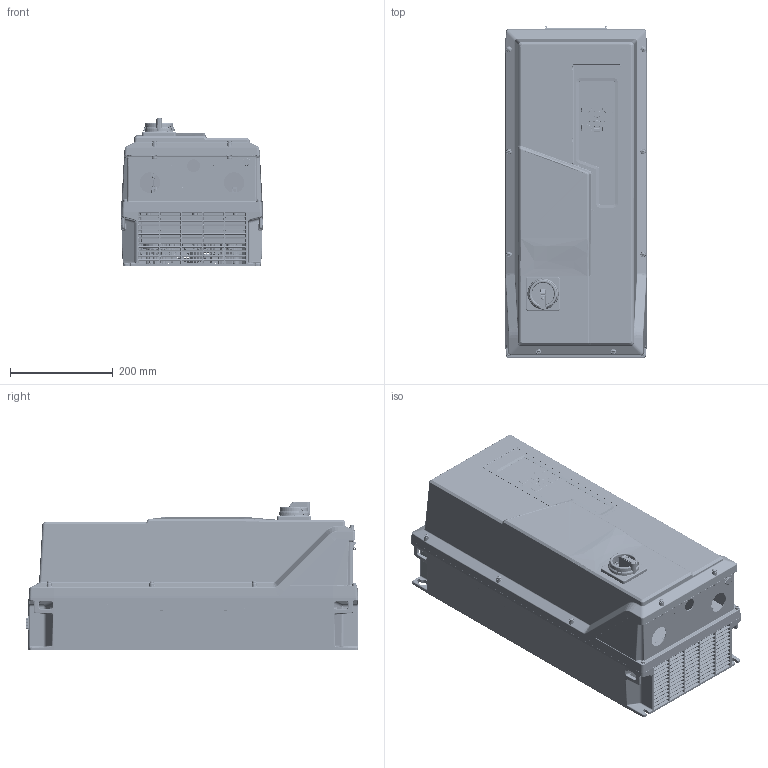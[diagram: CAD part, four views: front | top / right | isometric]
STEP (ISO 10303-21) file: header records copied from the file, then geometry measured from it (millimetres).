
FILE_DESCRIPTION((''),'2;1');
FILE_NAME('DEFAULT_REP_SW0001','2023-10-04T10:55:26',('USMAKAR'),(''),'CREO PARAMETRIC BY PTC INC, 2020281','CREO PARAMETRIC BY PTC INC, 2020281','');
FILE_SCHEMA(('CONFIG_CONTROL_DESIGN'));
Products named in the file (1): DEFAULT_REP_SW0001
Bounding box: 277 x 647 x 289.71 mm (x, y, z)
Surface area: 3176003.8 mm2 (no closed solid volume)
Topology: 0 solids, 352 shells, 8506 faces, 32229 edges, 23248 vertices
Faces by surface type: cylinder 2904, plane 2345, bspline 1821, cone 580, torus 531, sphere 320, extrusion 5
Entity records: 446429 total; most frequent: CARTESIAN_POINT 201214, ORIENTED_EDGE 48689, DIRECTION 44711, EDGE_CURVE 32155, VERTEX_POINT 23248, VECTOR 16397, LINE 16392, AXIS2_PLACEMENT_3D 14157
